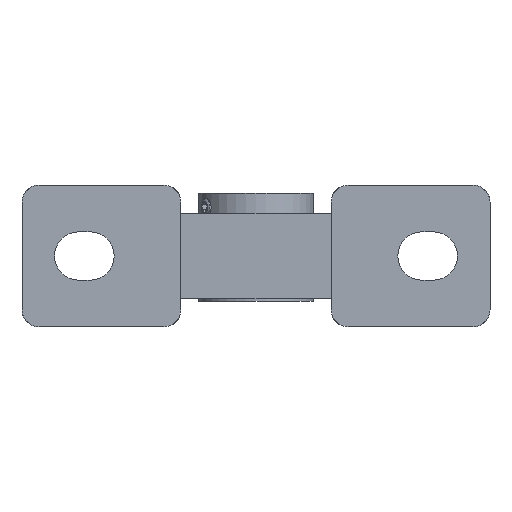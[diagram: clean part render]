
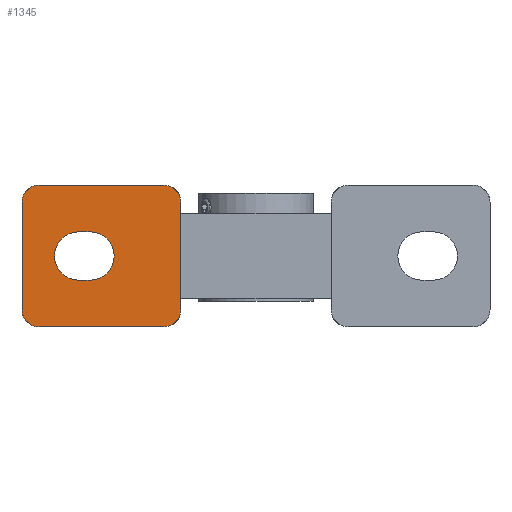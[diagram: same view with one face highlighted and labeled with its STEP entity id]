
A CAD part, front view. The second image highlights one B-rep face of the part: STEP entity #1345.
In plain terms, the highlighted planar face has unit normal (0, -1, 0).
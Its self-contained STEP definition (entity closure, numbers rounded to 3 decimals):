
#409=CARTESIAN_POINT('',(9.855,-51.095,-25.0));
#410=VERTEX_POINT('',#409);
#417=CARTESIAN_POINT('',(-34.145,-51.095,-25.0));
#418=VERTEX_POINT('',#417);
#419=CARTESIAN_POINT('',(9.855,-51.095,-25.0));
#420=DIRECTION('',(-1.0,0.0,0.0));
#421=VECTOR('',#420,44.);
#422=LINE('',#419,#421);
#423=EDGE_CURVE('',#410,#418,#422,.T.);
#1110=CARTESIAN_POINT('',(-40.145,-51.095,-19.0));
#1111=VERTEX_POINT('',#1110);
#1112=CARTESIAN_POINT('',(-34.145,-51.095,-19.0));
#1113=DIRECTION('',(0.0,1.0,0.0));
#1114=DIRECTION('',(-0.707,0.0,-0.707));
#1115=AXIS2_PLACEMENT_3D('',#1112,#1113,#1114);
#1116=CIRCLE('',#1115,6.);
#1117=EDGE_CURVE('',#418,#1111,#1116,.T.);
#1210=CARTESIAN_POINT('',(-40.145,-51.095,19.0));
#1211=VERTEX_POINT('',#1210);
#1218=CARTESIAN_POINT('',(-34.145,-51.095,25.0));
#1219=VERTEX_POINT('',#1218);
#1220=CARTESIAN_POINT('',(-34.145,-51.095,19.0));
#1221=DIRECTION('',(0.0,1.0,0.0));
#1222=DIRECTION('',(-0.707,0.0,0.707));
#1223=AXIS2_PLACEMENT_3D('',#1220,#1221,#1222);
#1224=CIRCLE('',#1223,6.);
#1225=EDGE_CURVE('',#1211,#1219,#1224,.T.);
#1242=CARTESIAN_POINT('',(9.855,-51.095,25.0));
#1243=VERTEX_POINT('',#1242);
#1244=CARTESIAN_POINT('',(-34.145,-51.095,25.0));
#1245=DIRECTION('',(1.0,0.0,0.0));
#1246=VECTOR('',#1245,44.);
#1247=LINE('',#1244,#1246);
#1248=EDGE_CURVE('',#1219,#1243,#1247,.T.);
#1268=CARTESIAN_POINT('',(42.355,-51.095,0.0));
#1269=DIRECTION('',(0.0,-1.0,0.0));
#1270=DIRECTION('',(0.0,0.0,-1.0));
#1271=AXIS2_PLACEMENT_3D('',#1268,#1269,#1270);
#1272=PLANE('',#1271);
#1273=ORIENTED_EDGE('',*,*,#1117,.F.);
#1274=ORIENTED_EDGE('',*,*,#423,.F.);
#1275=CARTESIAN_POINT('',(15.855,-51.095,-19.));
#1276=VERTEX_POINT('',#1275);
#1277=CARTESIAN_POINT('',(9.855,-51.095,-19.0));
#1278=DIRECTION('',(0.0,1.0,0.0));
#1279=DIRECTION('',(0.707,0.0,-0.707));
#1280=AXIS2_PLACEMENT_3D('',#1277,#1278,#1279);
#1281=CIRCLE('',#1280,6.0);
#1282=EDGE_CURVE('',#1276,#410,#1281,.T.);
#1283=ORIENTED_EDGE('',*,*,#1282,.F.);
#1284=CARTESIAN_POINT('',(15.855,-51.095,19.));
#1285=VERTEX_POINT('',#1284);
#1286=CARTESIAN_POINT('',(15.855,-51.095,19.));
#1287=DIRECTION('',(0.0,0.0,-1.0));
#1288=VECTOR('',#1287,38.0);
#1289=LINE('',#1286,#1288);
#1290=EDGE_CURVE('',#1285,#1276,#1289,.T.);
#1291=ORIENTED_EDGE('',*,*,#1290,.F.);
#1292=CARTESIAN_POINT('',(9.855,-51.095,19.0));
#1293=DIRECTION('',(0.0,1.0,0.0));
#1294=DIRECTION('',(0.707,0.0,0.707));
#1295=AXIS2_PLACEMENT_3D('',#1292,#1293,#1294);
#1296=CIRCLE('',#1295,6.);
#1297=EDGE_CURVE('',#1243,#1285,#1296,.T.);
#1298=ORIENTED_EDGE('',*,*,#1297,.F.);
#1299=ORIENTED_EDGE('',*,*,#1248,.F.);
#1300=ORIENTED_EDGE('',*,*,#1225,.F.);
#1301=CARTESIAN_POINT('',(-40.145,-51.095,-19.0));
#1302=DIRECTION('',(0.0,0.0,1.0));
#1303=VECTOR('',#1302,38.0);
#1304=LINE('',#1301,#1303);
#1305=EDGE_CURVE('',#1111,#1211,#1304,.T.);
#1306=ORIENTED_EDGE('',*,*,#1305,.F.);
#1307=EDGE_LOOP('',(#1273,#1274,#1283,#1291,#1298,#1299,#1300,#1306));
#1308=FACE_OUTER_BOUND('',#1307,.T.);
#1309=CARTESIAN_POINT('',(-20.145,-51.095,-8.5));
#1310=VERTEX_POINT('',#1309);
#1311=CARTESIAN_POINT('',(-16.145,-51.095,-8.5));
#1312=VERTEX_POINT('',#1311);
#1313=CARTESIAN_POINT('',(-20.145,-51.095,-8.5));
#1314=DIRECTION('',(1.0,0.0,0.0));
#1315=VECTOR('',#1314,4.);
#1316=LINE('',#1313,#1315);
#1317=EDGE_CURVE('',#1310,#1312,#1316,.T.);
#1318=ORIENTED_EDGE('',*,*,#1317,.F.);
#1319=CARTESIAN_POINT('',(-20.145,-51.095,8.5));
#1320=VERTEX_POINT('',#1319);
#1321=CARTESIAN_POINT('',(-20.145,-51.095,0.));
#1322=DIRECTION('',(0.0,-1.0,0.0));
#1323=DIRECTION('',(0.0,0.0,1.0));
#1324=AXIS2_PLACEMENT_3D('',#1321,#1322,#1323);
#1325=CIRCLE('',#1324,8.5);
#1326=EDGE_CURVE('',#1320,#1310,#1325,.T.);
#1327=ORIENTED_EDGE('',*,*,#1326,.F.);
#1328=CARTESIAN_POINT('',(-16.145,-51.095,8.5));
#1329=VERTEX_POINT('',#1328);
#1330=CARTESIAN_POINT('',(-16.145,-51.095,8.5));
#1331=DIRECTION('',(-1.0,0.0,0.0));
#1332=VECTOR('',#1331,4.);
#1333=LINE('',#1330,#1332);
#1334=EDGE_CURVE('',#1329,#1320,#1333,.T.);
#1335=ORIENTED_EDGE('',*,*,#1334,.F.);
#1336=CARTESIAN_POINT('',(-16.145,-51.095,0.0));
#1337=DIRECTION('',(0.0,-1.0,0.0));
#1338=DIRECTION('',(0.0,0.0,-1.0));
#1339=AXIS2_PLACEMENT_3D('',#1336,#1337,#1338);
#1340=CIRCLE('',#1339,8.5);
#1341=EDGE_CURVE('',#1312,#1329,#1340,.T.);
#1342=ORIENTED_EDGE('',*,*,#1341,.F.);
#1343=EDGE_LOOP('',(#1318,#1327,#1335,#1342));
#1344=FACE_BOUND('',#1343,.T.);
#1345=ADVANCED_FACE('',(#1308,#1344),#1272,.T.);
